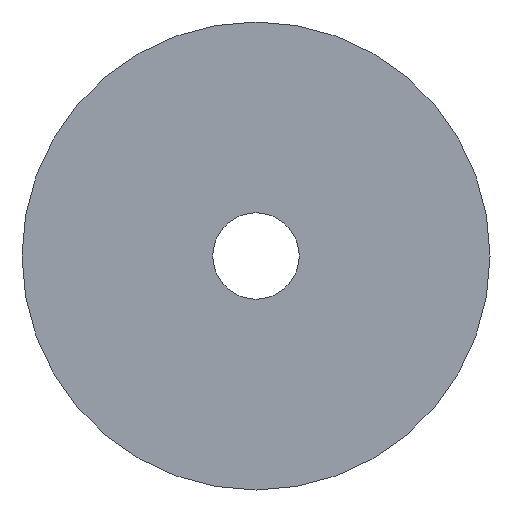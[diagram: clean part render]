
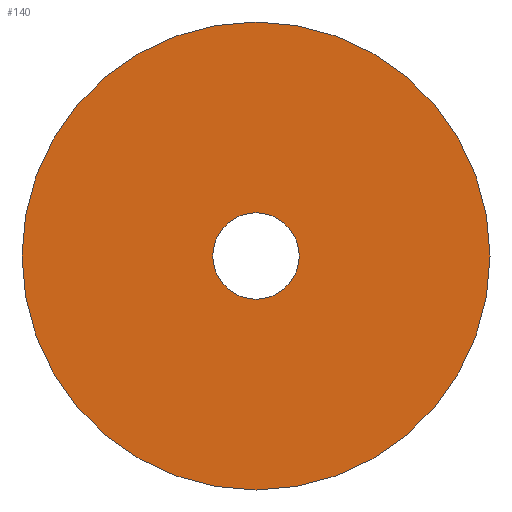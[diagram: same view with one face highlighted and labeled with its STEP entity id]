
A CAD part, front view. The second image highlights one B-rep face of the part: STEP entity #140.
In plain terms, the highlighted planar face has unit normal (0, -1, 0).
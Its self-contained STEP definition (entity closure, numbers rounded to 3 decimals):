
#31 = CYLINDRICAL_SURFACE('',#32,65.);
#32 = AXIS2_PLACEMENT_3D('',#33,#34,#35);
#33 = CARTESIAN_POINT('',(220.,-138.913,125.));
#34 = DIRECTION('',(0.,1.,0.));
#35 = DIRECTION('',(0.,-0.,1.));
#56 = VERTEX_POINT('',#57);
#57 = CARTESIAN_POINT('',(220.,-138.913,190.));
#78 = EDGE_CURVE('',#56,#56,#79,.T.);
#79 = SURFACE_CURVE('',#80,(#85,#92),.PCURVE_S1.);
#80 = CIRCLE('',#81,65.);
#81 = AXIS2_PLACEMENT_3D('',#82,#83,#84);
#82 = CARTESIAN_POINT('',(220.,-138.913,125.));
#83 = DIRECTION('',(0.,1.,0.));
#84 = DIRECTION('',(0.,-0.,1.));
#85 = PCURVE('',#31,#86);
#86 = DEFINITIONAL_REPRESENTATION('',(#87),#91);
#87 = LINE('',#88,#89);
#88 = CARTESIAN_POINT('',(0.,0.));
#89 = VECTOR('',#90,1.);
#90 = DIRECTION('',(1.,0.));
#91 = ( GEOMETRIC_REPRESENTATION_CONTEXT(2) 
PARAMETRIC_REPRESENTATION_CONTEXT() REPRESENTATION_CONTEXT('2D SPACE',''
  ) );
#92 = PCURVE('',#93,#98);
#93 = PLANE('',#94);
#94 = AXIS2_PLACEMENT_3D('',#95,#96,#97);
#95 = CARTESIAN_POINT('',(220.,-138.913,125.));
#96 = DIRECTION('',(0.,1.,0.));
#97 = DIRECTION('',(0.,-0.,1.));
#98 = DEFINITIONAL_REPRESENTATION('',(#99),#103);
#99 = CIRCLE('',#100,65.);
#100 = AXIS2_PLACEMENT_2D('',#101,#102);
#101 = CARTESIAN_POINT('',(0.,0.));
#102 = DIRECTION('',(1.,0.));
#103 = ( GEOMETRIC_REPRESENTATION_CONTEXT(2) 
PARAMETRIC_REPRESENTATION_CONTEXT() REPRESENTATION_CONTEXT('2D SPACE',''
  ) );
#129 = CYLINDRICAL_SURFACE('',#130,12.);
#130 = AXIS2_PLACEMENT_3D('',#131,#132,#133);
#131 = CARTESIAN_POINT('',(220.,-138.913,125.));
#132 = DIRECTION('',(0.,1.,0.));
#133 = DIRECTION('',(0.,-0.,1.));
#140 = ADVANCED_FACE('',(#141,#144),#93,.F.);
#141 = FACE_BOUND('',#142,.F.);
#142 = EDGE_LOOP('',(#143));
#143 = ORIENTED_EDGE('',*,*,#78,.T.);
#144 = FACE_BOUND('',#145,.F.);
#145 = EDGE_LOOP('',(#146));
#146 = ORIENTED_EDGE('',*,*,#147,.F.);
#147 = EDGE_CURVE('',#148,#148,#150,.T.);
#148 = VERTEX_POINT('',#149);
#149 = CARTESIAN_POINT('',(220.,-138.913,137.));
#150 = SURFACE_CURVE('',#151,(#156,#163),.PCURVE_S1.);
#151 = CIRCLE('',#152,12.);
#152 = AXIS2_PLACEMENT_3D('',#153,#154,#155);
#153 = CARTESIAN_POINT('',(220.,-138.913,125.));
#154 = DIRECTION('',(0.,1.,0.));
#155 = DIRECTION('',(0.,-0.,1.));
#156 = PCURVE('',#93,#157);
#157 = DEFINITIONAL_REPRESENTATION('',(#158),#162);
#158 = CIRCLE('',#159,12.);
#159 = AXIS2_PLACEMENT_2D('',#160,#161);
#160 = CARTESIAN_POINT('',(0.,0.));
#161 = DIRECTION('',(1.,0.));
#162 = ( GEOMETRIC_REPRESENTATION_CONTEXT(2) 
PARAMETRIC_REPRESENTATION_CONTEXT() REPRESENTATION_CONTEXT('2D SPACE',''
  ) );
#163 = PCURVE('',#129,#164);
#164 = DEFINITIONAL_REPRESENTATION('',(#165),#169);
#165 = LINE('',#166,#167);
#166 = CARTESIAN_POINT('',(0.,0.));
#167 = VECTOR('',#168,1.);
#168 = DIRECTION('',(1.,0.));
#169 = ( GEOMETRIC_REPRESENTATION_CONTEXT(2) 
PARAMETRIC_REPRESENTATION_CONTEXT() REPRESENTATION_CONTEXT('2D SPACE',''
  ) );
